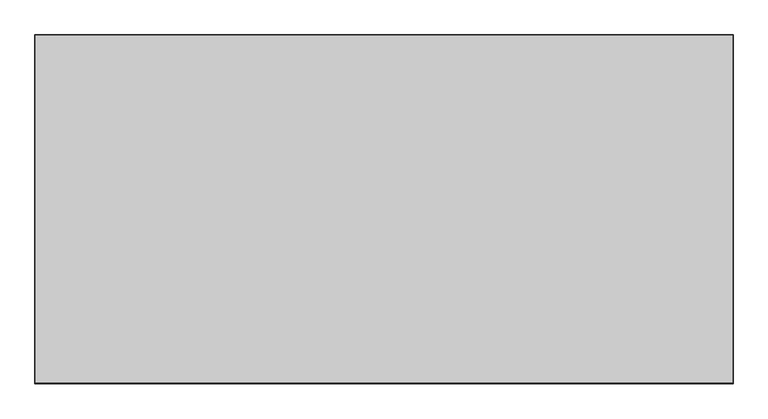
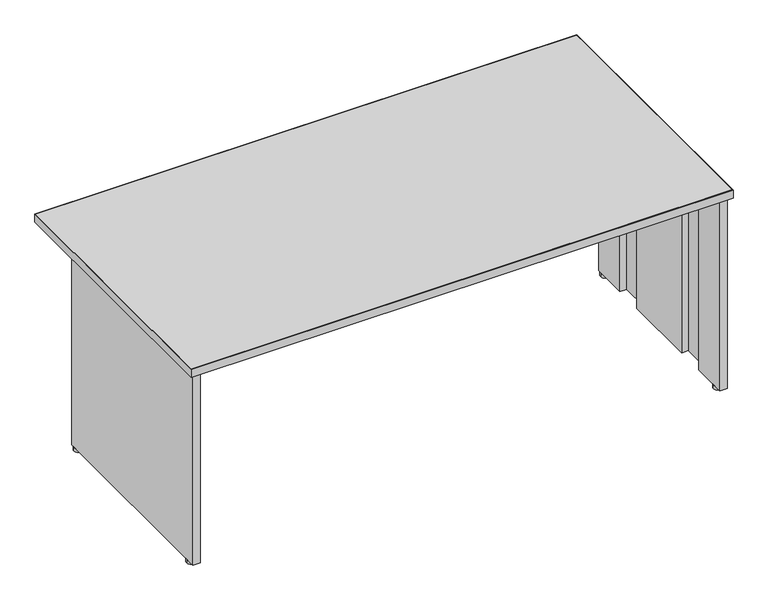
"""IFC4 building model written with IfcOpenShell, lengths in millimetres: furniture geometry, Steelcase - Kick Freestanding - Desk Shell - Partial Height Modesty Panel : 36D x 72W."""

from ifc_helpers import new_model, si_unit, point, frame, frame_2d, origin, origin_with_axes, place, context, project, spatial, polyline, circle_curve, trimmed, segment, composite_curve, outline, extrude, source, transform, mapped, element, save


def furniture_d9dfcd18(model_context):
    return source(origin(), model_context, "Body", "SweptSolid", [
        extrude(outline(polyline([(677.0450425, -1152.3647597), (677.0450425, -1126.9647604), (2431.4738425, -1126.9647604), (2431.4738425, -1152.3647597), (677.0450425, -1152.3647597)])), frame((0.0, 0.0, 390.144), z_axis=(0.0, 0.0, 1.0), x_axis=(1.0, 0.0, 0.0)), (0.0, 0.0, 1.0), 304.8),
        extrude(outline(composite_curve([segment(trimmed(circle_curve(frame_2d((665.1357759, -1139.3367877)), 13.97), [point((651.1657759, -1139.3367877))], [point((679.1057759, -1139.3367877))], False, "CARTESIAN"), True, "CONTINUOUS"), segment(trimmed(circle_curve(frame_2d((665.1357759, -1139.3367877)), 13.97), [point((679.1057759, -1139.3367877))], [point((651.1657759, -1139.3367877))], False, "CARTESIAN"), True, "CONTINUOUS")], self_intersect=False)), origin_with_axes(), (0.0, 0.0, 1.0), 12.446),
        extrude(outline(composite_curve([segment(trimmed(circle_curve(frame_2d((665.1357759, -1798.4441481)), 13.97), [point((651.1657759, -1798.4441481))], [point((679.1057759, -1798.4441481))], False, "CARTESIAN"), True, "CONTINUOUS"), segment(trimmed(circle_curve(frame_2d((665.1357759, -1798.4441481)), 13.97), [point((679.1057759, -1798.4441481))], [point((651.1657759, -1798.4441481))], False, "CARTESIAN"), True, "CONTINUOUS")], self_intersect=False)), origin_with_axes(), (0.0, 0.0, 1.0), 12.446),
        extrude(outline(polyline([(2431.4738425, -1248.4529604), (2431.4738425, -1125.1867604), (2455.9594421, -1125.1867604), (2455.9594421, -1833.338741), (2431.4738421, -1833.338741), (2431.4738421, -1709.0311348), (2453.9020425, -1709.0311348), (2453.9020425, -1609.3107682), (2431.4738421, -1609.3107682), (2431.4738421, -1348.1733647), (2453.9020425, -1348.1733647), (2453.9020425, -1248.4529604), (2431.4738425, -1248.4529604)])), frame((0.0, 0.0, 12.446), z_axis=(0.0, 0.0, 1.0), x_axis=(1.0, 0.0, 0.0)), (0.0, 0.0, 1.0), 682.498),
        extrude(outline(polyline([(677.0450425, -1248.4529604), (654.6168425, -1248.4529604), (654.6168425, -1348.1733647), (677.0450429, -1348.1733647), (677.0450429, -1609.3107682), (654.6168425, -1609.3107682), (654.6168425, -1709.0311348), (677.0450429, -1709.0311348), (677.0450429, -1833.338741), (652.5594429, -1833.338741), (652.5594429, -1125.1867604), (677.0450425, -1125.1867604), (677.0450425, -1248.4529604)])), frame((0.0, 0.0, 12.446), z_axis=(0.0, 0.0, 1.0), x_axis=(1.0, 0.0, 0.0)), (0.0, 0.0, 1.0), 682.498),
        extrude(outline(polyline([(2467.6688425, -932.6293604), (2467.6688425, -1843.0669215), (640.8500425, -1843.0669215), (640.8500425, -932.6293604), (2467.6688425, -932.6293604)])), frame((0.0, 0.0, 694.944), z_axis=(0.0, 0.0, 1.0), x_axis=(1.0, 0.0, 0.0)), (0.0, 0.0, 1.0), 28.956),
        extrude(outline(polyline([(2468.6594425, -931.6387604), (2468.6594425, -1846.0387604), (639.8594425, -1846.0387604), (639.8594425, -931.6387604), (2468.6594425, -931.6387604)]), holes=[polyline([(2467.6688425, -932.6293604), (640.8500425, -932.6293604), (640.8500425, -1843.0669215), (2467.6688425, -1843.0669215), (2467.6688425, -932.6293604)])]), frame((0.0, 0.0, 694.944), z_axis=(0.0, 0.0, 1.0), x_axis=(1.0, 0.0, 0.0)), (0.0, 0.0, 1.0), 28.956),
        extrude(outline(composite_curve([segment(trimmed(circle_curve(frame_2d((2443.3831091, -1798.4441481)), 13.97), [point((2429.4131091, -1798.4441481))], [point((2457.3531091, -1798.4441481))], False, "CARTESIAN"), True, "CONTINUOUS"), segment(trimmed(circle_curve(frame_2d((2443.3831091, -1798.4441481)), 13.97), [point((2457.3531091, -1798.4441481))], [point((2429.4131091, -1798.4441481))], False, "CARTESIAN"), True, "CONTINUOUS")], self_intersect=False)), origin_with_axes(), (0.0, 0.0, 1.0), 12.446),
        extrude(outline(composite_curve([segment(trimmed(circle_curve(frame_2d((2443.3831091, -1139.3367877)), 13.97), [point((2457.3531091, -1139.3367877))], [point((2429.4131091, -1139.3367877))], False, "CARTESIAN"), True, "CONTINUOUS"), segment(trimmed(circle_curve(frame_2d((2443.3831091, -1139.3367877)), 13.97), [point((2429.4131091, -1139.3367877))], [point((2457.3531091, -1139.3367877))], False, "CARTESIAN"), True, "CONTINUOUS")], self_intersect=False)), origin_with_axes(), (0.0, 0.0, 1.0), 12.446),
    ])


if __name__ == "__main__":
    model = new_model("IFC4")
    model_context = context("Model", 3, world=origin())
    ifc_project = project(units=[si_unit("LENGTHUNIT", "METRE", prefix="MILLI")], contexts=[model_context])
    site = spatial("IfcSite", under=ifc_project)
    building = spatial("IfcBuilding", under=site)
    placement = place(None, origin())
    furniture_shape = furniture_d9dfcd18(model_context)
    element("IfcFurniture", 1, ObjectType="Steelcase - Kick Freestanding - Desk Shell - Partial Height Modesty Panel : 36D x 72W", at=placement, inside=building, context=model_context, shape_type="MappedRepresentation", body=[
        mapped(furniture_shape, transform((0.0, 0.0, 0.0), x_axis=(1.0, 0.0, 0.0), y_axis=(0.0, 1.0, 0.0), z_axis=(0.0, 0.0, 1.0))),
    ])
    save(model, "model.ifc")
